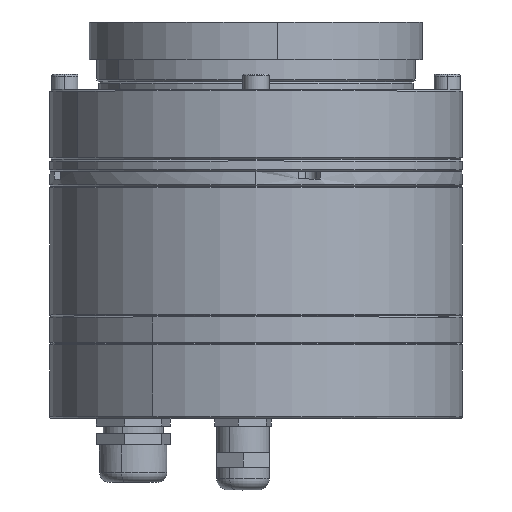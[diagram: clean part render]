
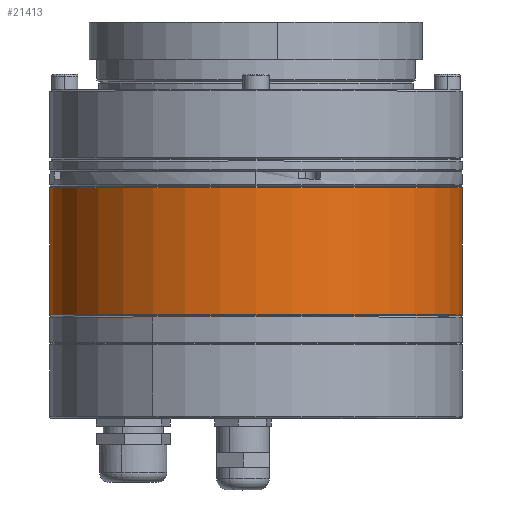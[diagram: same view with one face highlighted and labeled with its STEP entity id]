
A CAD part, top view. The second image highlights one B-rep face of the part: STEP entity #21413.
In plain terms, the highlighted cylindrical face has radius 55 mm (diameter 110 mm), a partial arc.
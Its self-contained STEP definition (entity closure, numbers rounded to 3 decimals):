
#284 = VERTEX_POINT ( 'NONE', #33259 ) ;
#1138 = EDGE_LOOP ( 'NONE', ( #11186, #22316, #2881, #34536 ) ) ;
#1579 = VERTEX_POINT ( 'NONE', #13634 ) ;
#2881 = ORIENTED_EDGE ( 'NONE', *, *, #22016, .T. ) ;
#6826 = DIRECTION ( 'NONE',  ( 0., 1., 0. ) ) ;
#8326 = DIRECTION ( 'NONE',  ( 0., 1., 0. ) ) ;
#8481 = EDGE_CURVE ( 'NONE', #284, #8938, #14676, .T. ) ;
#8776 = CARTESIAN_POINT ( 'NONE',  ( 0., -55., 0. ) ) ;
#8938 = VERTEX_POINT ( 'NONE', #19124 ) ;
#10115 = DIRECTION ( 'NONE',  ( -1., 0., 0. ) ) ;
#10979 = DIRECTION ( 'NONE',  ( 0., -1., 0. ) ) ;
#11186 = ORIENTED_EDGE ( 'NONE', *, *, #8481, .F. ) ;
#11807 = FACE_OUTER_BOUND ( 'NONE', #1138, .T. ) ;
#13362 = CARTESIAN_POINT ( 'NONE',  ( 34.2, 0., 0. ) ) ;
#13597 = EDGE_CURVE ( 'NONE', #284, #27365, #18908, .T. ) ;
#13634 = CARTESIAN_POINT ( 'NONE',  ( 34.2, 55., 0. ) ) ;
#14676 = LINE ( 'NONE', #8776, #34971 ) ;
#14921 = AXIS2_PLACEMENT_3D ( 'NONE', #13362, #10115, #6826 ) ;
#18782 = CARTESIAN_POINT ( 'NONE',  ( 0., 0., 0. ) ) ;
#18908 = CIRCLE ( 'NONE', #22383, 55. ) ;
#19124 = CARTESIAN_POINT ( 'NONE',  ( 34.2, -55., 0. ) ) ;
#19321 = LINE ( 'NONE', #42853, #35833 ) ;
#21413 = ADVANCED_FACE ( 'NONE', ( #11807 ), #21624, .T. ) ;
#21624 = CYLINDRICAL_SURFACE ( 'NONE', #26713, 55. ) ;
#22016 = EDGE_CURVE ( 'NONE', #27365, #1579, #19321, .T. ) ;
#22316 = ORIENTED_EDGE ( 'NONE', *, *, #13597, .T. ) ;
#22383 = AXIS2_PLACEMENT_3D ( 'NONE', #40842, #23262, #10979 ) ;
#23262 = DIRECTION ( 'NONE',  ( 1., 0., 0. ) ) ;
#26713 = AXIS2_PLACEMENT_3D ( 'NONE', #18782, #32087, #8326 ) ;
#26906 = CARTESIAN_POINT ( 'NONE',  ( 0.3, 55., 0. ) ) ;
#27365 = VERTEX_POINT ( 'NONE', #26906 ) ;
#32087 = DIRECTION ( 'NONE',  ( 1., 0., 0. ) ) ;
#33065 = DIRECTION ( 'NONE',  ( 1., 0., 0. ) ) ;
#33259 = CARTESIAN_POINT ( 'NONE',  ( 0.3, -55., 0. ) ) ;
#33727 = CIRCLE ( 'NONE', #14921, 55. ) ;
#34536 = ORIENTED_EDGE ( 'NONE', *, *, #36974, .T. ) ;
#34971 = VECTOR ( 'NONE', #37775, 1000. ) ;
#35833 = VECTOR ( 'NONE', #33065, 1000. ) ;
#36974 = EDGE_CURVE ( 'NONE', #1579, #8938, #33727, .T. ) ;
#37775 = DIRECTION ( 'NONE',  ( 1., 0., 0. ) ) ;
#40842 = CARTESIAN_POINT ( 'NONE',  ( 0.3, 0., 0. ) ) ;
#42853 = CARTESIAN_POINT ( 'NONE',  ( 0., 55., 0. ) ) ;
